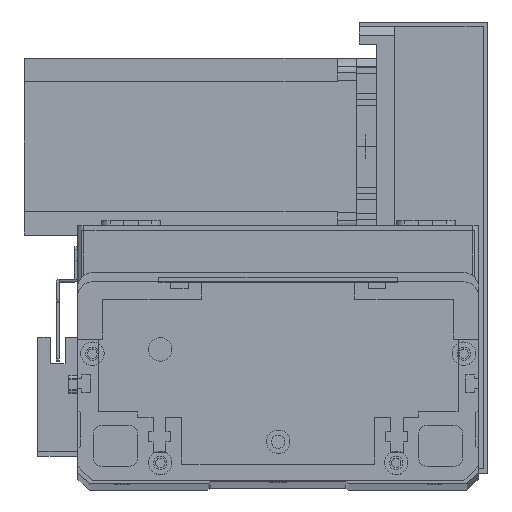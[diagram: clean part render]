
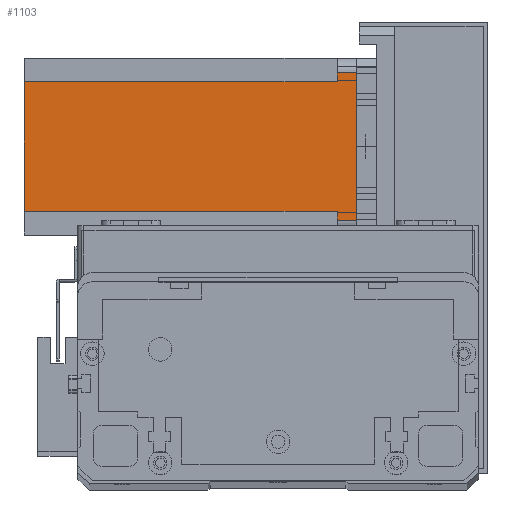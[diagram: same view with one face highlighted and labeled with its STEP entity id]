
A CAD part, top view. The second image highlights one B-rep face of the part: STEP entity #1103.
In plain terms, the highlighted planar face has unit normal (0, 0, 1) as drawn and (0, 1, 0) by its records, which use the part's own axes.
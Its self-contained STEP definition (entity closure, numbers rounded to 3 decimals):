
#1103 = ADVANCED_FACE ( 'NONE', ( #11815 ), #6914, .T. ) ;
#1209 = ORIENTED_EDGE ( 'NONE', *, *, #9333, .F. ) ;
#1777 = ORIENTED_EDGE ( 'NONE', *, *, #18898, .F. ) ;
#2109 = LINE ( 'NONE', #24749, #26342 ) ;
#3691 = CARTESIAN_POINT ( 'NONE',  ( 8., 60., -6.5 ) ) ;
#3856 = DIRECTION ( 'NONE',  ( 0., 0., 1. ) ) ;
#3963 = DIRECTION ( 'NONE',  ( 0., 1., 0. ) ) ;
#4012 = VERTEX_POINT ( 'NONE', #15457 ) ;
#4326 = CARTESIAN_POINT ( 'NONE',  ( 0., 60., -112.5 ) ) ;
#4588 = LINE ( 'NONE', #15036, #27892 ) ;
#5401 = ORIENTED_EDGE ( 'NONE', *, *, #9729, .T. ) ;
#5521 = LINE ( 'NONE', #19134, #24298 ) ;
#5740 = VERTEX_POINT ( 'NONE', #17533 ) ;
#5748 = VERTEX_POINT ( 'NONE', #17063 ) ;
#6209 = LINE ( 'NONE', #18508, #28668 ) ;
#6914 = PLANE ( 'NONE',  #19458 ) ;
#7094 = VECTOR ( 'NONE', #21616, 1000. ) ;
#8157 = EDGE_LOOP ( 'NONE', ( #1777, #17534, #16023, #1209, #5401, #9467, #10393, #27637 ) ) ;
#8578 = DIRECTION ( 'NONE',  ( 0., 0., 1. ) ) ;
#8724 = CARTESIAN_POINT ( 'NONE',  ( 5., 60., -112.5 ) ) ;
#9333 = EDGE_CURVE ( 'NONE', #4012, #16375, #6209, .T. ) ;
#9334 = EDGE_CURVE ( 'NONE', #5748, #17543, #11557, .T. ) ;
#9467 = ORIENTED_EDGE ( 'NONE', *, *, #14808, .F. ) ;
#9729 = EDGE_CURVE ( 'NONE', #4012, #13018, #26294, .T. ) ;
#9834 = EDGE_CURVE ( 'NONE', #24430, #5740, #17561, .T. ) ;
#10283 = DIRECTION ( 'NONE',  ( -1., 0., 0. ) ) ;
#10340 = CARTESIAN_POINT ( 'NONE',  ( 0., 60., -112.5 ) ) ;
#10393 = ORIENTED_EDGE ( 'NONE', *, *, #11985, .T. ) ;
#11311 = DIRECTION ( 'NONE',  ( -1., 0., 0. ) ) ;
#11531 = VECTOR ( 'NONE', #8578, 1000. ) ;
#11557 = LINE ( 'NONE', #18067, #16885 ) ;
#11815 = FACE_OUTER_BOUND ( 'NONE', #8157, .T. ) ;
#11985 = EDGE_CURVE ( 'NONE', #16552, #24430, #4588, .T. ) ;
#13018 = VERTEX_POINT ( 'NONE', #23566 ) ;
#14777 = DIRECTION ( 'NONE',  ( -1., 0., 0. ) ) ;
#14808 = EDGE_CURVE ( 'NONE', #16552, #13018, #25753, .T. ) ;
#15036 = CARTESIAN_POINT ( 'NONE',  ( 8., 60., -6.5 ) ) ;
#15457 = CARTESIAN_POINT ( 'NONE',  ( 52., 60., -112.5 ) ) ;
#16023 = ORIENTED_EDGE ( 'NONE', *, *, #24624, .F. ) ;
#16375 = VERTEX_POINT ( 'NONE', #21287 ) ;
#16552 = VERTEX_POINT ( 'NONE', #3691 ) ;
#16885 = VECTOR ( 'NONE', #18030, 1000. ) ;
#17063 = CARTESIAN_POINT ( 'NONE',  ( 55., 60., 0. ) ) ;
#17533 = CARTESIAN_POINT ( 'NONE',  ( 5., 60., 0. ) ) ;
#17534 = ORIENTED_EDGE ( 'NONE', *, *, #9334, .T. ) ;
#17543 = VERTEX_POINT ( 'NONE', #18726 ) ;
#17561 = LINE ( 'NONE', #8724, #11531 ) ;
#18030 = DIRECTION ( 'NONE',  ( 0., 0., -1. ) ) ;
#18067 = CARTESIAN_POINT ( 'NONE',  ( 55., 60., -112.5 ) ) ;
#18306 = DIRECTION ( 'NONE',  ( 0., 0., 1. ) ) ;
#18508 = CARTESIAN_POINT ( 'NONE',  ( 52., 60., -112.5 ) ) ;
#18726 = CARTESIAN_POINT ( 'NONE',  ( 55., 60., -6.5 ) ) ;
#18898 = EDGE_CURVE ( 'NONE', #5748, #5740, #2109, .T. ) ;
#19134 = CARTESIAN_POINT ( 'NONE',  ( 52., 60., -6.5 ) ) ;
#19458 = AXIS2_PLACEMENT_3D ( 'NONE', #4326, #3963, #3856 ) ;
#21287 = CARTESIAN_POINT ( 'NONE',  ( 52., 60., -6.5 ) ) ;
#21616 = DIRECTION ( 'NONE',  ( 0., 0., -1. ) ) ;
#23566 = CARTESIAN_POINT ( 'NONE',  ( 8., 60., -112.5 ) ) ;
#23590 = CARTESIAN_POINT ( 'NONE',  ( 8., 60., -112.5 ) ) ;
#24298 = VECTOR ( 'NONE', #25763, 1000. ) ;
#24430 = VERTEX_POINT ( 'NONE', #25224 ) ;
#24624 = EDGE_CURVE ( 'NONE', #16375, #17543, #5521, .T. ) ;
#24749 = CARTESIAN_POINT ( 'NONE',  ( 0., 60., 0. ) ) ;
#25224 = CARTESIAN_POINT ( 'NONE',  ( 5., 60., -6.5 ) ) ;
#25577 = VECTOR ( 'NONE', #10283, 1000. ) ;
#25753 = LINE ( 'NONE', #23590, #7094 ) ;
#25763 = DIRECTION ( 'NONE',  ( 1., 0., 0. ) ) ;
#26294 = LINE ( 'NONE', #10340, #25577 ) ;
#26342 = VECTOR ( 'NONE', #11311, 1000. ) ;
#27637 = ORIENTED_EDGE ( 'NONE', *, *, #9834, .T. ) ;
#27892 = VECTOR ( 'NONE', #14777, 1000. ) ;
#28668 = VECTOR ( 'NONE', #18306, 1000. ) ;
